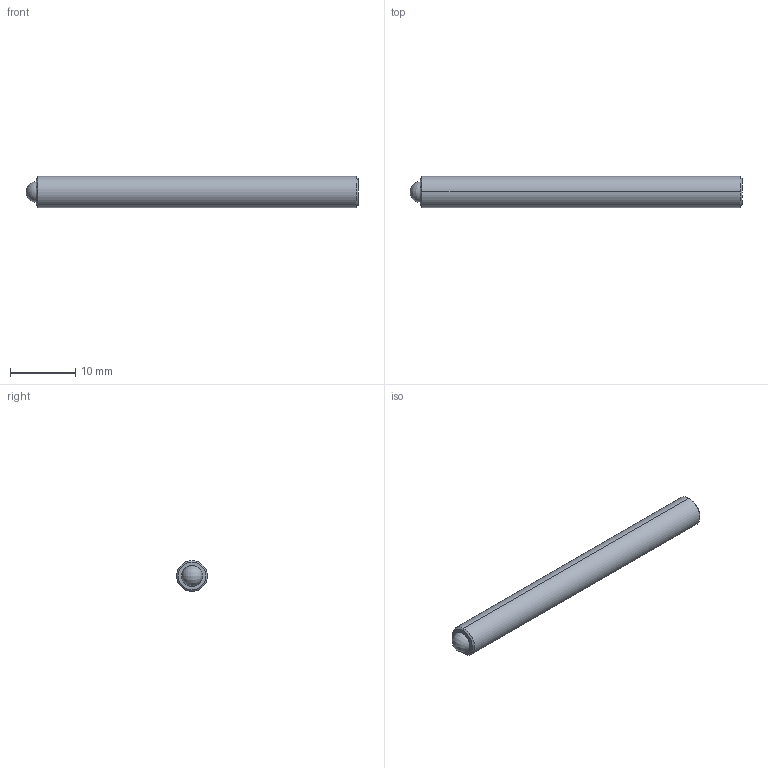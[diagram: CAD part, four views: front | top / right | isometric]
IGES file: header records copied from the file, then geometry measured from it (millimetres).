
Start section: SolidWorks IGES file using analytic representation for surfaces
Global section: file name: C:\Users\workpc\Desktop\KMA Solidworks\TS187-100-2000.IGS; native system: SolidWorks 2013; preprocessor: SolidWorks 2013; author: workpc; date: 130211.110353; units: inch
Bounding box: 50.79 x 4.75 x 4.75 mm (x, y, z)
Surface area: 828.4 mm2 (no closed solid volume)
Topology: 0 solids, 0 shells, 20 faces, 204 edges, 200 vertices
Faces by surface type: revolution 10, bspline 10
